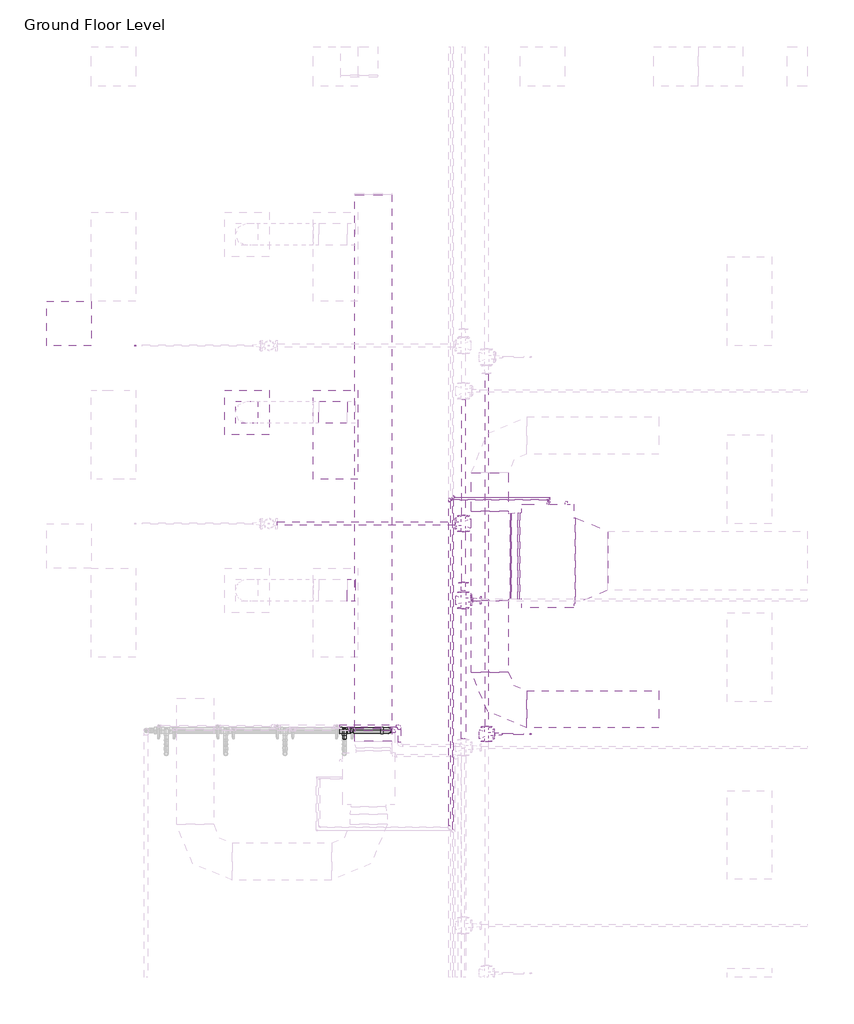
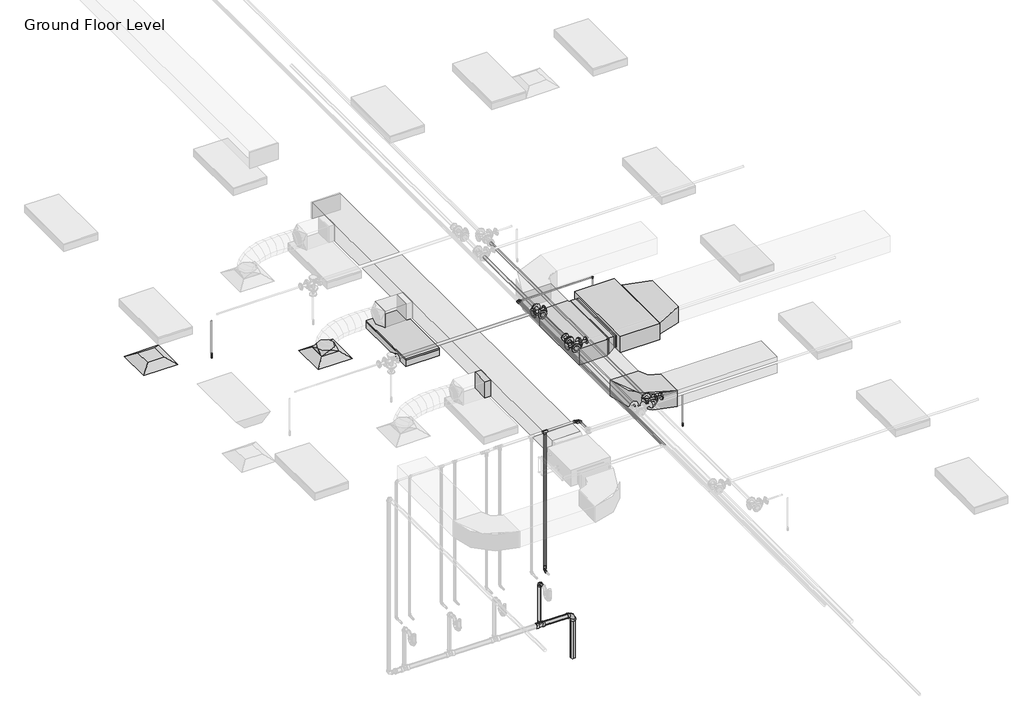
# One storey, part 25 of 74: 24 pipe fittings, 24 pipe segments, 7 duct fittings, 7 duct segments, 2 air terminals, 2 fire suppression terminals, 1 light fixture, 1 proxy.
"""IFC4 building model written with IfcOpenShell, lengths in millimetres."""

from ifc_helpers import new_model, si_unit, point, frame, frame_2d, origin, place, context, project, spatial, polyline, circle_curve, trimmed, segment, composite_curve, outline, extrude, transform, mapped, element, save
from components import m_return_diffuser_600_x_600_face_300_x_300_connection_ff221211, fcu_daikin_iu_5a1bd61d, m_rectangular_elbow_radius_1_w_abe20169, m_rectangular_takeoff_standard_cb0ccb98, m_rectangular_tee_standard_c717c13b, m_rectangular_transition_angle_45_degree_d2868699, m_rectangular_transition_angle_45_degree_3270bfc3, m_rectangular_transition_angle_45_degree_83bbb609, m_rectangular_to_round_transition_angle_45_degree_641efff0, m_sprinkler_dry_pendent_hosted_15_mm_dry_pendent_9bda8e11, m_sprinkler_pendent_15_mm_pendent_06fcbd8e, m_troffer_light_parabolic_rectangular1_0600x1200mm_4_lamp_86473d4a, m_bend_pvc_sch_40_dwv_standard_0eeb11e1, m_bend_pvc_sch_40_dwv_standard_1e7bdcc1, m_elbow_generic_standard_a088f956, m_elbow_generic_standard_2a704253, m_elbow_generic_standard_411ee063, m_elbow_generic_standard_a67d3ed8, m_reducer_flanged_cs_class_150_standard_cc2a7c1d, m_reducer_flanged_cs_class_150_standard_3ab32b2b, m_reducer_flanged_cs_class_150_standard_a7631c35, m_tee_generic_standard_5b2ed4d4, m_tee_generic_standard_5078887e, m_tee_reducing_sanitary_pvc_sch_40_dwv_standard_21d2848c, m_tee_round_base_flanged_cs_class_150_standard_dd767e04, m_tee_round_base_flanged_cs_class_150_standard_9c9133d0, m_tee_round_base_flanged_cs_class_150_standard_ab36f383, m_transition_generic_standard_5f8a9689, m_transition_generic_standard_bdcfe2c1, m_transition_generic_standard_44e35838, m_transition_generic_standard_570aa73b, standard_b266ab3f, standard_517a5a8d, standard_72b35c3b, standard_c7dcb452

model = new_model("IFC4")

# Units and contexts
model_context = context("Model", 3, world=origin())
ifc_project = project(units=[si_unit("LENGTHUNIT", "METRE", prefix="MILLI")], contexts=[model_context])

# Site, building, storey
site = spatial("IfcSite", under=ifc_project)
building = spatial("IfcBuilding", under=site)
storey = spatial("IfcBuildingStorey", under=building, Name="Ground Floor Level", Elevation=900.0)

# Air terminals
placement = place(None, origin())
m_return_diffuser_600_x_600_face_300_x_300_connection_shape = m_return_diffuser_600_x_600_face_300_x_300_connection_ff221211(model_context)
element("IfcAirTerminal", 1, ObjectType="M_Return Diffuser : 600 x 600 Face 300 x 300 Connection", at=placement, inside=storey, context=model_context, shape_type="MappedRepresentation", body=[
    mapped(m_return_diffuser_600_x_600_face_300_x_300_connection_shape, transform((362.7672395, -18364.7846466, 3650.0), x_axis=(1.0, 0.0, 0.0), y_axis=(0.0, 1.0, 0.0), z_axis=(0.0, 0.0, 1.0))),
])
element("IfcAirTerminal", 2, ObjectType="M_Supply Diffuser : 600 x 600 Face 300 x 300 Connection", at=placement, inside=storey, context=model_context, shape_type="MappedRepresentation", body=[
    mapped(m_return_diffuser_600_x_600_face_300_x_300_connection_shape, transform((2762.7672395, -19564.7846466, 3650.0), x_axis=(1.0, 0.0, 0.0), y_axis=(0.0, 1.0, 0.0), z_axis=(0.0, 0.0, 1.0))),
])

# Proxy
fcu_daikin_iu_shape = fcu_daikin_iu_5a1bd61d(model_context)
element("IfcBuildingElementProxy", 3, Name="FCU-DAIKIN IU : 9kW, 230V/50Hz/1Ph", ObjectType="FCU-DAIKIN IU : 9kW, 230V/50Hz/1Ph", at=placement, inside=storey, context=model_context, shape_type="MappedRepresentation", body=[
    mapped(fcu_daikin_iu_shape, transform((6820.4959647, -21503.0689179, 3984.0882279), x_axis=(0.0, 1.0, 0.0), y_axis=(-1.0, 0.0, 0.0), z_axis=(0.0, 0.0, 1.0))),
])

# Duct fittings
m_rectangular_elbow_radius_1_w_shape = m_rectangular_elbow_radius_1_w_abe20169(model_context)
element("IfcDuctFitting", 4, ObjectType="M_Rectangular Elbow - Radius : 1 W", at=placement, inside=storey, context=model_context, shape_type="MappedRepresentation", body=[
    mapped(m_rectangular_elbow_radius_1_w_shape, transform((6040.9897768, -23568.5689179, 4082.4543707), x_axis=(0.0, -1.0, 0.0), y_axis=(1.0, 0.0, 0.0), z_axis=(0.0, 0.0, 1.0))),
])
m_rectangular_takeoff_standard_shape = m_rectangular_takeoff_standard_cb0ccb98(model_context)
element("IfcDuctFitting", 5, ObjectType="M_Rectangular Takeoff : Standard", at=placement, inside=storey, context=model_context, shape_type="MappedRepresentation", body=[
    mapped(m_rectangular_takeoff_standard_shape, transform((4219.1581832, -21964.7846466, 4057.1519579), x_axis=(-1.0, 0.0, 0.0), y_axis=(0.0, 1.0, 0.0), z_axis=(0.0, 0.0, -1.0))),
])
m_rectangular_tee_standard_shape = m_rectangular_tee_standard_c717c13b(model_context)
element("IfcDuctFitting", 6, ObjectType="M_Rectangular Tee : Standard", at=placement, inside=storey, context=model_context, shape_type="MappedRepresentation", body=[
    mapped(m_rectangular_tee_standard_shape, transform((6040.9973279, -21503.0689179, 4082.4405262), x_axis=(0.0, -1.0, 0.0), y_axis=(-1.0, 0.0, 0.0), z_axis=(0.0, 0.0, -1.0))),
])
m_rectangular_transition_angle_45_degree_shape = m_rectangular_transition_angle_45_degree_d2868699(model_context)
element("IfcDuctFitting", 7, ObjectType="M_Rectangular Transition - Angle : 45 Degree", at=placement, inside=storey, context=model_context, shape_type="MappedRepresentation", body=[
    mapped(m_rectangular_transition_angle_45_degree_shape, transform((7195.8959647, -21566.5689179, 4150.0007279), x_axis=(1.0, 0.0, 0.0), y_axis=(0.0, 1.0, 0.0), z_axis=(0.0, 0.0, 1.0))),
])
m_rectangular_transition_angle_45_degree_2_shape = m_rectangular_transition_angle_45_degree_3270bfc3(model_context)
element("IfcDuctFitting", 8, ObjectType="M_Rectangular Transition - Angle : 45 Degree", at=placement, inside=storey, context=model_context, shape_type="MappedRepresentation", body=[
    mapped(m_rectangular_transition_angle_45_degree_2_shape, transform((6445.0959647, -21503.0689179, 4125.2882279), x_axis=(-1.0, 0.0, 0.0), y_axis=(0.0, -1.0, 0.0), z_axis=(0.0, 0.0, 1.0))),
])
m_rectangular_transition_angle_45_degree_3_shape = m_rectangular_transition_angle_45_degree_83bbb609(model_context)
element("IfcDuctFitting", 9, ObjectType="M_Rectangular Transition - Angle : 45 Degree", at=placement, inside=storey, context=model_context, shape_type="MappedRepresentation", body=[
    mapped(m_rectangular_transition_angle_45_degree_3_shape, transform((6416.9897764, -21503.0689179, 4125.4405264), x_axis=(-1.0, 0.0, 0.0), y_axis=(0.0, -1.0, 0.0), z_axis=(0.0, 0.0, 1.0))),
])
m_rectangular_to_round_transition_angle_45_degree_shape = m_rectangular_to_round_transition_angle_45_degree_641efff0(model_context)
element("IfcDuctFitting", 10, ObjectType="M_Rectangular to Round Transition - Angle : 45 Degree", at=placement, inside=storey, context=model_context, shape_type="MappedRepresentation", body=[
    mapped(m_rectangular_to_round_transition_angle_45_degree_shape, transform((2762.7672395, -19564.7846466, 3751.6), x_axis=(0.0, 0.0, 1.0), y_axis=(-1.0, 0.0, 0.0), z_axis=(0.0, -1.0, 0.0))),
])

# Duct segments
element("IfcDuctSegment", 11, ObjectType="Radius Elbows / Taps", at=placement, inside=storey, context=model_context, shape_type="SweptSolid", body=[
    extrude(outline(polyline([(0.0, -500.0), (0.0, 0.0), (7371.604175, 0.0), (7371.604175, -500.0), (0.0, -500.0)])), frame((4719.1581832, -16631.8629481, 3907.1429453), z_axis=(0.0, 1.6199957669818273e-06, 0.9999999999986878), x_axis=(0.0, -0.9999999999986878, 1.6199957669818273e-06)), (0.0, 0.0, 1.0), 300.0),
])
element("IfcDuctSegment", 12, ObjectType="Radius Elbows / Taps", at=placement, inside=storey, context=model_context, shape_type="SweptSolid", body=[
    extrude(outline(polyline([(6290.9897768, -20897.5689179), (5790.9897768, -20897.5689179), (5790.9897768, -20377.6206315), (6290.9897768, -20377.6206315), (6290.9897768, -20897.5689179)])), frame((0.0, 0.0, 3932.4543707), z_axis=(0.0, 0.0, 1.0), x_axis=(1.0, 0.0, 0.0)), (0.0, 0.0, 1.0), 300.0),
])
element("IfcDuctSegment", 13, ObjectType="Radius Elbows / Taps", at=placement, inside=storey, context=model_context, shape_type="SweptSolid", body=[
    extrude(outline(polyline([(5790.9897768, -22108.5689179), (6290.9897768, -22108.5689179), (6290.9897768, -23068.5689179), (5790.9897768, -23068.5689179), (5790.9897768, -22108.5689179)])), frame((0.0, 0.0, 3932.4543707), z_axis=(0.0, 0.0, 1.0), x_axis=(1.0, 0.0, 0.0)), (0.0, 0.0, 1.0), 300.0),
])
element("IfcDuctSegment", 14, ObjectType="Radius Elbows / Taps", at=placement, inside=storey, context=model_context, shape_type="SweptSolid", body=[
    extrude(outline(polyline([(6540.9897768, -23818.5689179), (6540.9897768, -23318.5689179), (8320.9897766, -23318.5689179), (8320.9897766, -23818.5689179), (6540.9897768, -23818.5689179)])), frame((0.0, 0.0, 3932.4543707), z_axis=(0.0, 0.0, 1.0), x_axis=(1.0, 0.0, 0.0)), (0.0, 0.0, 1.0), 300.0),
])
element("IfcDuctSegment", 15, ObjectType="Radius Elbows / Taps", at=placement, inside=storey, context=model_context, shape_type="SweptSolid", body=[
    extrude(outline(polyline([(6315.9897764, -22083.5689179), (6315.9897764, -20922.5689179), (6330.9897764, -20922.5689179), (6330.9897764, -22083.5689179), (6315.9897764, -22083.5689179)])), frame((0.0, 0.0, 3932.4405264), z_axis=(0.0, 0.0, 1.0), x_axis=(1.0, 0.0, 0.0)), (0.0, 0.0, 1.0), 300.0),
])
element("IfcDuctSegment", 16, ObjectType="Radius Elbows / Taps", at=placement, inside=storey, context=model_context, shape_type="SweptSolid", body=[
    extrude(outline(polyline([(6444.798299, -20922.0689179), (6444.798299, -22084.0689179), (6416.9897764, -22084.0689179), (6416.9897764, -20922.0689179), (6444.798299, -20922.0689179)])), frame((0.0, 0.0, 4018.4405264), z_axis=(0.0, 0.0, 1.0), x_axis=(1.0, 0.0, 0.0)), (0.0, 0.0, 1.0), 214.0),
])
element("IfcDuctSegment", 17, ObjectType="Radius Elbows / Taps", at=placement, inside=storey, context=model_context, shape_type="SweptSolid", body=[
    extrude(outline(polyline([(4117.5581832, -19414.7846466), (4117.5581832, -19714.7846466), (3732.9552689, -19714.7846466), (3732.9552689, -19414.7846466), (4117.5581832, -19414.7846466)])), frame((0.0, 0.0, 3907.1479019), z_axis=(0.0, 0.0, 1.0), x_axis=(1.0, 0.0, 0.0)), (0.0, 0.0, 1.0), 300.0),
])

# Fire suppression terminals
m_sprinkler_dry_pendent_hosted_15_mm_dry_pendent_shape = m_sprinkler_dry_pendent_hosted_15_mm_dry_pendent_9bda8e11(model_context)
element("IfcFireSuppressionTerminal", 18, ObjectType="M_Sprinkler - Dry - Pendent - Hosted : 15 mm Dry Pendent", at=placement, inside=storey, context=model_context, shape_type="MappedRepresentation", body=[
    mapped(m_sprinkler_dry_pendent_hosted_15_mm_dry_pendent_shape, transform((1262.7672395, -18664.7846466, 3650.0), x_axis=(1.0, 0.0, 0.0), y_axis=(0.0, -1.0, 0.0), z_axis=(0.0, 0.0, -1.0))),
])
m_sprinkler_pendent_15_mm_pendent_shape = m_sprinkler_pendent_15_mm_pendent_06fcbd8e(model_context)
element("IfcFireSuppressionTerminal", 19, ObjectType="M_Sprinkler - Pendent : 15 mm Pendent", at=placement, inside=storey, context=model_context, shape_type="MappedRepresentation", body=[
    mapped(m_sprinkler_pendent_15_mm_pendent_shape, transform((6592.5481019, -23903.6779349, 3650.0), x_axis=(1.0, 0.0, 0.0), y_axis=(0.0, 1.0, 0.0), z_axis=(0.0, 0.0, 1.0))),
])

# Light fixture
m_troffer_light_parabolic_rectangular1_0600x1200mm_4_lamp_shape = m_troffer_light_parabolic_rectangular1_0600x1200mm_4_lamp_86473d4a(model_context)
element("IfcLightFixture", 20, ObjectType="M_Troffer Light - Parabolic Rectangular1 : 0600x1200mm(4 Lamp) - 277V 2", at=placement, inside=storey, context=model_context, shape_type="MappedRepresentation", body=[
    mapped(m_troffer_light_parabolic_rectangular1_0600x1200mm_4_lamp_shape, transform((3903.3013074, -19846.081145, 3650.0), x_axis=(0.0, 1.0, 0.0), y_axis=(-1.0, 0.0, 0.0), z_axis=(0.0, 0.0, 1.0))),
])

# Pipe fittings
m_bend_pvc_sch_40_dwv_standard_shape = m_bend_pvc_sch_40_dwv_standard_0eeb11e1(model_context)
element("IfcPipeFitting", 21, ObjectType="M_Bend - PVC - Sch 40 - DWV : Standard", at=placement, inside=storey, context=model_context, shape_type="MappedRepresentation", body=[
    mapped(m_bend_pvc_sch_40_dwv_standard_shape, transform((4671.3267974, -23854.2948449, 706.9937306), x_axis=(0.9999500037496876, 0.0, -0.009999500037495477), y_axis=(-0.009999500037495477, 0.0, -0.9999500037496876), z_axis=(0.0, 1.0, 0.0))),
])
m_bend_pvc_sch_40_dwv_standard_2_shape = m_bend_pvc_sch_40_dwv_standard_1e7bdcc1(model_context)
element("IfcPipeFitting", 22, ObjectType="M_Bend - PVC - Sch 40 - DWV : Standard", at=placement, inside=storey, context=model_context, shape_type="MappedRepresentation", body=[
    mapped(m_bend_pvc_sch_40_dwv_standard_2_shape, transform((4078.7498, -23854.2948449, 1508.2594199), x_axis=(0.0, 0.9999500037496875, -0.00999950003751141), y_axis=(0.0, -0.00999950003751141, -0.9999500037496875), z_axis=(-1.0, 0.0, 0.0))),
])
m_elbow_generic_standard_shape = m_elbow_generic_standard_a088f956(model_context)
element("IfcPipeFitting", 23, ObjectType="M_Elbow - Generic : Standard", at=placement, inside=storey, context=model_context, shape_type="MappedRepresentation", body=[
    mapped(m_elbow_generic_standard_shape, transform((6820.4959647, -20745.3977393, 4390.0), x_axis=(1.0, 0.0, 0.0), y_axis=(0.0, 0.0, -1.0), z_axis=(0.0, 1.0, 0.0))),
])
m_elbow_generic_standard_2_shape = m_elbow_generic_standard_2a704253(model_context)
element("IfcPipeFitting", 24, ObjectType="M_Elbow - Generic : Standard", at=placement, inside=storey, context=model_context, shape_type="MappedRepresentation", body=[
    mapped(m_elbow_generic_standard_2_shape, transform((6845.4959647, -20711.8462992, 4377.5), x_axis=(1.0, 0.0, 0.0), y_axis=(0.0, 0.0, -1.0), z_axis=(0.0, 1.0, 0.0))),
])
m_elbow_generic_standard_3_shape = m_elbow_generic_standard_411ee063(model_context)
element("IfcPipeFitting", 25, ObjectType="M_Elbow - Generic : Standard", at=placement, inside=storey, context=model_context, shape_type="MappedRepresentation", body=[
    mapped(m_elbow_generic_standard_3_shape, transform((6820.4959647, -20745.3896748, 4084.1050098), x_axis=(0.0, 0.0, -1.0), y_axis=(0.0, -1.0, 0.0), z_axis=(-1.0, 0.0, 0.0))),
])
m_elbow_generic_standard_4_shape = m_elbow_generic_standard_a67d3ed8(model_context)
element("IfcPipeFitting", 26, ObjectType="M_Elbow - Generic : Standard", at=placement, inside=storey, context=model_context, shape_type="MappedRepresentation", body=[
    mapped(m_elbow_generic_standard_4_shape, transform((6845.4959647, -20711.8400273, 4134.9034747), x_axis=(0.0, 0.0, -1.0), y_axis=(0.0, -1.0, 0.0), z_axis=(-1.0, 0.0, 0.0))),
])
m_reducer_flanged_cs_class_150_standard_shape = m_reducer_flanged_cs_class_150_standard_cc2a7c1d(model_context)
element("IfcPipeFitting", 27, ObjectType="M_Reducer - Flanged - CS - Class 150 : Standard", at=placement, inside=storey, context=model_context, shape_type="MappedRepresentation", body=[
    mapped(m_reducer_flanged_cs_class_150_standard_shape, transform((6103.1564057, -23903.6779349, 4291.2754753), x_axis=(1.0, 0.0, 0.0), y_axis=(0.0, 0.0, -1.0), z_axis=(0.0, 1.0, 0.0))),
])
m_reducer_flanged_cs_class_150_standard_2_shape = m_reducer_flanged_cs_class_150_standard_3ab32b2b(model_context)
element("IfcPipeFitting", 28, ObjectType="M_Reducer - Flanged - CS - Class 150 : Standard", at=placement, inside=storey, context=model_context, shape_type="MappedRepresentation", body=[
    mapped(m_reducer_flanged_cs_class_150_standard_2_shape, transform((5684.6174894, -21984.0287346, 4347.5), x_axis=(0.0, 1.0, 0.0), y_axis=(-1.0, 0.0, 0.0), z_axis=(0.0, 0.0, 1.0))),
])
m_reducer_flanged_cs_class_150_standard_3_shape = m_reducer_flanged_cs_class_150_standard_a7631c35(model_context)
element("IfcPipeFitting", 29, ObjectType="M_Reducer - Flanged - CS - Class 150 : Standard", at=placement, inside=storey, context=model_context, shape_type="MappedRepresentation", body=[
    mapped(m_reducer_flanged_cs_class_150_standard_3_shape, transform((5798.6174894, -22098.0287346, 4347.5), x_axis=(1.0, 0.0, 0.0), y_axis=(0.0, 0.0, 1.0), z_axis=(0.0, -1.0, 0.0))),
])
m_tee_generic_standard_shape = m_tee_generic_standard_5b2ed4d4(model_context)
element("IfcPipeFitting", 30, ObjectType="M_Tee - Generic : Standard", at=placement, inside=storey, context=model_context, shape_type="MappedRepresentation", body=[
    mapped(m_tee_generic_standard_shape, transform((5543.9904113, -20711.8462992, 4377.5), x_axis=(0.0, -1.0, 0.0), y_axis=(-1.0, 0.0, 0.0), z_axis=(0.0, 0.0, -1.0))),
])
m_tee_generic_standard_2_shape = m_tee_generic_standard_5078887e(model_context)
element("IfcPipeFitting", 31, ObjectType="M_Tee - Generic : Standard", at=placement, inside=storey, context=model_context, shape_type="MappedRepresentation", body=[
    mapped(m_tee_generic_standard_2_shape, transform((5497.8951827, -20745.3977393, 4390.0), x_axis=(0.0, -1.0, 0.0), y_axis=(-1.0, 0.0, 0.0), z_axis=(0.0, 0.0, -1.0))),
])
m_tee_reducing_sanitary_pvc_sch_40_dwv_standard_shape = m_tee_reducing_sanitary_pvc_sch_40_dwv_standard_21d2848c(model_context)
element("IfcPipeFitting", 32, ObjectType="M_Tee Reducing Sanitary - PVC - Sch 40 - DWV : Standard", at=placement, inside=storey, context=model_context, shape_type="MappedRepresentation", body=[
    mapped(m_tee_reducing_sanitary_pvc_sch_40_dwv_standard_shape, transform((4078.7498, -23854.2948449, 713.0632162), x_axis=(-0.9999500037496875, 0.0, 0.00999950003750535), y_axis=(-0.00999950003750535, 0.0, -0.9999500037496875), z_axis=(0.0, -1.0, 0.0))),
])
m_tee_round_base_flanged_cs_class_150_standard_shape = m_tee_round_base_flanged_cs_class_150_standard_dd767e04(model_context)
element("IfcPipeFitting", 33, ObjectType="M_Tee Round Base - Flanged - CS - Class 150 : Standard", at=placement, inside=storey, context=model_context, shape_type="MappedRepresentation", body=[
    mapped(m_tee_round_base_flanged_cs_class_150_standard_shape, transform((5684.6174894, -22098.0287346, 4347.5), x_axis=(0.0, -1.0, 0.0), y_axis=(-1.0, 0.0, 0.0), z_axis=(0.0, 0.0, -1.0))),
])
m_tee_round_base_flanged_cs_class_150_standard_2_shape = m_tee_round_base_flanged_cs_class_150_standard_9c9133d0(model_context)
element("IfcPipeFitting", 34, ObjectType="M_Tee Round Base - Flanged - CS - Class 150 : Standard", at=placement, inside=storey, context=model_context, shape_type="MappedRepresentation", body=[
    mapped(m_tee_round_base_flanged_cs_class_150_standard_2_shape, transform((5997.057812, -23903.6779349, 4291.0943441), x_axis=(0.0, 1.0, 0.0), y_axis=(-1.0, 0.0, 0.0), z_axis=(0.0, 0.0, 1.0))),
])
m_tee_round_base_flanged_cs_class_150_standard_3_shape = m_tee_round_base_flanged_cs_class_150_standard_ab36f383(model_context)
element("IfcPipeFitting", 35, ObjectType="M_Tee Round Base - Flanged - CS - Class 150 : Standard", at=placement, inside=storey, context=model_context, shape_type="MappedRepresentation", body=[
    mapped(m_tee_round_base_flanged_cs_class_150_standard_3_shape, transform((5684.6174894, -21064.7846466, 4347.5), x_axis=(0.0, -1.0, 0.0), y_axis=(1.0, 0.0, 0.0), z_axis=(0.0, 0.0, 1.0))),
])
m_transition_generic_standard_shape = m_transition_generic_standard_5f8a9689(model_context)
element("IfcPipeFitting", 36, ObjectType="M_Transition - Generic : Standard", at=placement, inside=storey, context=model_context, shape_type="MappedRepresentation", body=[
    mapped(m_transition_generic_standard_shape, transform((5497.8951827, -20721.5852393, 4390.0), x_axis=(0.0, 1.0, 0.0), y_axis=(-1.0, 0.0, 0.0), z_axis=(0.0, 0.0, 1.0))),
])
m_transition_generic_standard_2_shape = m_transition_generic_standard_bdcfe2c1(model_context)
element("IfcPipeFitting", 37, ObjectType="M_Transition - Generic : Standard", at=placement, inside=storey, context=model_context, shape_type="MappedRepresentation", body=[
    mapped(m_transition_generic_standard_2_shape, transform((5564.6279113, -20711.8462992, 4377.5), x_axis=(1.0, 0.0, 0.0), y_axis=(0.0, 1.0, 0.0), z_axis=(0.0, 0.0, 1.0))),
])
m_transition_generic_standard_3_shape = m_transition_generic_standard_44e35838(model_context)
element("IfcPipeFitting", 38, ObjectType="M_Transition - Generic : Standard", at=placement, inside=storey, context=model_context, shape_type="MappedRepresentation", body=[
    mapped(m_transition_generic_standard_3_shape, transform((5521.7076827, -20745.3977393, 4390.0), x_axis=(1.0, 0.0, 0.0), y_axis=(0.0, 1.0, 0.0), z_axis=(0.0, 0.0, 1.0))),
])
m_transition_generic_standard_4_shape = m_transition_generic_standard_570aa73b(model_context)
element("IfcPipeFitting", 39, ObjectType="M_Transition - Generic : Standard", at=placement, inside=storey, context=model_context, shape_type="MappedRepresentation", body=[
    mapped(m_transition_generic_standard_4_shape, transform((5543.9904113, -20691.2087992, 4377.5), x_axis=(0.0, 1.0, 0.0), y_axis=(-1.0, 0.0, 0.0), z_axis=(0.0, 0.0, 1.0))),
])
standard_shape = standard_b266ab3f(model_context)
element("IfcPipeFitting", 40, ObjectType="M_Elbow - CPVC - Sch 40 : Standard", at=placement, inside=storey, context=model_context, shape_type="MappedRepresentation", body=[
    mapped(standard_shape, transform((4183.0647206, -23844.7846466, 1690.0), x_axis=(0.0, 1.0, 0.0), y_axis=(0.0, 0.0, 1.0), z_axis=(1.0, 0.0, 0.0))),
])
standard_2_shape = standard_517a5a8d(model_context)
element("IfcPipeFitting", 41, ObjectType="M_Elbow - CPVC - Sch 40 : Standard", at=placement, inside=storey, context=model_context, shape_type="MappedRepresentation", body=[
    mapped(standard_2_shape, transform((4743.0647206, -23844.7846466, 4300.0), x_axis=(0.0, 1.0, 0.0), y_axis=(-1.0, 0.0, 0.0), z_axis=(0.0, 0.0, 1.0))),
])
element("IfcPipeFitting", 42, ObjectType="M_Elbow - CPVC - Sch 40 : Standard", at=placement, inside=storey, context=model_context, shape_type="MappedRepresentation", body=[
    mapped(standard_2_shape, transform((4820.5575802, -23794.921633, 4250.0), x_axis=(0.0, 1.0, 0.0), y_axis=(-1.0, 0.0, 0.0), z_axis=(0.0, 0.0, 1.0))),
])
standard_3_shape = standard_72b35c3b(model_context)
element("IfcPipeFitting", 43, ObjectType="M_Tee - CPVC - Sch 40 : Standard", at=placement, inside=storey, context=model_context, shape_type="MappedRepresentation", body=[
    mapped(standard_3_shape, transform((4183.0647206, -23844.7846466, 4300.0), x_axis=(-1.0, 0.0, 0.0), y_axis=(0.0, 0.0, 1.0), z_axis=(0.0, 1.0, 0.0))),
])
standard_4_shape = standard_c7dcb452(model_context)
element("IfcPipeFitting", 44, ObjectType="M_Coupling Reducing - CPVC - Sch 40 : Standard", at=placement, inside=storey, context=model_context, shape_type="MappedRepresentation", body=[
    mapped(standard_4_shape, transform((4183.0647206, -23844.7846466, 1725.32505), x_axis=(0.0, 0.0, 1.0), y_axis=(0.0, 1.0, 0.0), z_axis=(-1.0, 0.0, 0.0))),
])

# Pipe segments
element("IfcPipeSegment", 45, ObjectType="CPVC", at=placement, inside=storey, context=model_context, shape_type="SweptSolid", body=[
    extrude(outline(composite_curve([segment(trimmed(circle_curve(frame_2d((-23844.7846466, 4300.0)), 16.7005), [point((-23861.4851466, 4300.0))], [point((-23844.7846466, 4316.7005))], False, "CARTESIAN"), True, "CONTINUOUS"), segment(trimmed(circle_curve(frame_2d((-23844.7846466, 4300.0)), 16.7005), [point((-23844.7846466, 4316.7005))], [point((-23828.0841466, 4300.0))], False, "CARTESIAN"), True, "CONTINUOUS"), segment(trimmed(circle_curve(frame_2d((-23844.7846466, 4300.0)), 16.7005), [point((-23828.0841466, 4300.0))], [point((-23844.7846466, 4283.2995))], False, "CARTESIAN"), True, "CONTINUOUS"), segment(trimmed(circle_curve(frame_2d((-23844.7846466, 4300.0)), 16.7005), [point((-23844.7846466, 4283.2995))], [point((-23861.4851466, 4300.0))], False, "CARTESIAN"), True, "CONTINUOUS")], self_intersect=False)), frame((4222.7649206, 0.0, 0.0), z_axis=(1.0, 0.0, 0.0), x_axis=(0.0, 1.0, 0.0)), (0.0, 0.0, 1.0), 477.03725),
])
element("IfcPipeSegment", 46, ObjectType="CPVC", at=placement, inside=storey, context=model_context, shape_type="SweptSolid", body=[
    extrude(outline(composite_curve([segment(trimmed(circle_curve(frame_2d((4183.0647206, -23844.7846466)), 16.7005), [point((4166.3642206, -23844.7846466))], [point((4183.0647206, -23828.0841466))], False, "CARTESIAN"), True, "CONTINUOUS"), segment(trimmed(circle_curve(frame_2d((4183.0647206, -23844.7846466)), 16.7005), [point((4183.0647206, -23828.0841466))], [point((4199.7652206, -23844.7846466))], False, "CARTESIAN"), True, "CONTINUOUS"), segment(trimmed(circle_curve(frame_2d((4183.0647206, -23844.7846466)), 16.7005), [point((4199.7652206, -23844.7846466))], [point((4183.0647206, -23861.4851466))], False, "CARTESIAN"), True, "CONTINUOUS"), segment(trimmed(circle_curve(frame_2d((4183.0647206, -23844.7846466)), 16.7005), [point((4183.0647206, -23861.4851466))], [point((4166.3642206, -23844.7846466))], False, "CARTESIAN"), True, "CONTINUOUS")], self_intersect=False)), frame((0.0, 0.0, 1782.47505), z_axis=(0.0, 0.0, 1.0), x_axis=(1.0, 0.0, 0.0)), (0.0, 0.0, 1.0), 2477.82475),
])
element("IfcPipeSegment", 47, ObjectType="CPVC", at=placement, inside=storey, context=model_context, shape_type="SweptSolid", body=[
    extrude(outline(composite_curve([segment(trimmed(circle_curve(frame_2d((4250.0, 4820.5575802)), 16.7005), [point((4250.0, 4837.2580802))], [point((4266.7005, 4820.5575802))], False, "CARTESIAN"), True, "CONTINUOUS"), segment(trimmed(circle_curve(frame_2d((4250.0, 4820.5575802)), 16.7005), [point((4266.7005, 4820.5575802))], [point((4250.0, 4803.8570802))], False, "CARTESIAN"), True, "CONTINUOUS"), segment(trimmed(circle_curve(frame_2d((4250.0, 4820.5575802)), 16.7005), [point((4250.0, 4803.8570802))], [point((4233.2995, 4820.5575802))], False, "CARTESIAN"), True, "CONTINUOUS"), segment(trimmed(circle_curve(frame_2d((4250.0, 4820.5575802)), 16.7005), [point((4233.2995, 4820.5575802))], [point((4250.0, 4837.2580802))], False, "CARTESIAN"), True, "CONTINUOUS")], self_intersect=False)), frame((0.0, -24011.659083, 0.0), z_axis=(0.0, 1.0, 0.0), x_axis=(0.0, 0.0, 1.0)), (0.0, 0.0, 1.0), 173.4749),
])
element("IfcPipeSegment", 48, ObjectType="CPVC", at=placement, inside=storey, context=model_context, shape_type="SweptSolid", body=[
    extrude(outline(composite_curve([segment(trimmed(circle_curve(frame_2d((-23794.921633, 4250.0)), 16.7005), [point((-23811.622133, 4250.0))], [point((-23794.921633, 4266.7005))], False, "CARTESIAN"), True, "CONTINUOUS"), segment(trimmed(circle_curve(frame_2d((-23794.921633, 4250.0)), 16.7005), [point((-23794.921633, 4266.7005))], [point((-23778.221133, 4250.0))], False, "CARTESIAN"), True, "CONTINUOUS"), segment(trimmed(circle_curve(frame_2d((-23794.921633, 4250.0)), 16.7005), [point((-23778.221133, 4250.0))], [point((-23794.921633, 4233.2995))], False, "CARTESIAN"), True, "CONTINUOUS"), segment(trimmed(circle_curve(frame_2d((-23794.921633, 4250.0)), 16.7005), [point((-23794.921633, 4233.2995))], [point((-23811.622133, 4250.0))], False, "CARTESIAN"), True, "CONTINUOUS")], self_intersect=False)), frame((4014.1350794, 0.0, 0.0), z_axis=(1.0, 0.0, 0.0), x_axis=(0.0, 1.0, 0.0)), (0.0, 0.0, 1.0), 763.1599508),
])
element("IfcPipeSegment", 49, ObjectType="Copper", at=placement, inside=storey, context=model_context, shape_type="SweptSolid", body=[
    extrude(outline(composite_curve([segment(trimmed(circle_curve(frame_2d((-20711.8462992, 4377.5)), 3.35), [point((-20715.1962992, 4377.5))], [point((-20711.8462992, 4380.85))], False, "CARTESIAN"), True, "CONTINUOUS"), segment(trimmed(circle_curve(frame_2d((-20711.8462992, 4377.5)), 3.35), [point((-20711.8462992, 4380.85))], [point((-20708.4962992, 4377.5))], False, "CARTESIAN"), True, "CONTINUOUS"), segment(trimmed(circle_curve(frame_2d((-20711.8462992, 4377.5)), 3.35), [point((-20708.4962992, 4377.5))], [point((-20711.8462992, 4374.15))], False, "CARTESIAN"), True, "CONTINUOUS"), segment(trimmed(circle_curve(frame_2d((-20711.8462992, 4377.5)), 3.35), [point((-20711.8462992, 4374.15))], [point((-20715.1962992, 4377.5))], False, "CARTESIAN"), True, "CONTINUOUS")], self_intersect=False)), frame((5568.5966613, 0.0, 0.0), z_axis=(1.0, 0.0, 0.0), x_axis=(0.0, 1.0, 0.0)), (0.0, 0.0, 1.0), 1265.7618034),
])
element("IfcPipeSegment", 50, ObjectType="Copper", at=placement, inside=storey, context=model_context, shape_type="SweptSolid", body=[
    extrude(outline(composite_curve([segment(trimmed(circle_curve(frame_2d((-20745.3977393, 4390.0)), 6.5), [point((-20751.8977393, 4390.0))], [point((-20745.3977393, 4396.5))], False, "CARTESIAN"), True, "CONTINUOUS"), segment(trimmed(circle_curve(frame_2d((-20745.3977393, 4390.0)), 6.5), [point((-20745.3977393, 4396.5))], [point((-20738.8977393, 4390.0))], False, "CARTESIAN"), True, "CONTINUOUS"), segment(trimmed(circle_curve(frame_2d((-20745.3977393, 4390.0)), 6.5), [point((-20738.8977393, 4390.0))], [point((-20745.3977393, 4383.5))], False, "CARTESIAN"), True, "CONTINUOUS"), segment(trimmed(circle_curve(frame_2d((-20745.3977393, 4390.0)), 6.5), [point((-20745.3977393, 4383.5))], [point((-20751.8977393, 4390.0))], False, "CARTESIAN"), True, "CONTINUOUS")], self_intersect=False)), frame((5527.2639327, 0.0, 0.0), z_axis=(1.0, 0.0, 0.0), x_axis=(0.0, 1.0, 0.0)), (0.0, 0.0, 1.0), 1278.9445321),
])
element("IfcPipeSegment", 51, ObjectType="Copper", at=placement, inside=storey, context=model_context, shape_type="SweptSolid", body=[
    extrude(outline(composite_curve([segment(trimmed(circle_curve(frame_2d((0.0, -6.5)), 6.5), [point((-6.5, -6.5))], [point((0.0, 0.0))], False, "CARTESIAN"), True, "CONTINUOUS"), segment(trimmed(circle_curve(frame_2d((0.0, -6.5)), 6.5), [point((0.0, 0.0))], [point((6.5, -6.5))], False, "CARTESIAN"), True, "CONTINUOUS"), segment(trimmed(circle_curve(frame_2d((0.0, -6.5)), 6.5), [point((6.5, -6.5))], [point((0.0, -13.0))], False, "CARTESIAN"), True, "CONTINUOUS"), segment(trimmed(circle_curve(frame_2d((0.0, -6.5)), 6.5), [point((0.0, -13.0))], [point((-6.5, -6.5))], False, "CARTESIAN"), True, "CONTINUOUS")], self_intersect=False)), frame((6820.4959647, -20764.9497842, 4077.5882561), z_axis=(0.0, 0.9999956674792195, 0.0029436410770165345), x_axis=(1.0, 0.0, 0.0)), (0.0, 0.0, 1.0), 5.2929673),
])
element("IfcPipeSegment", 52, ObjectType="Copper", at=placement, inside=storey, context=model_context, shape_type="SweptSolid", body=[
    extrude(outline(composite_curve([segment(trimmed(circle_curve(frame_2d((0.0, -3.35)), 3.35), [point((0.0, 0.0))], [point((3.35, -3.35))], False, "CARTESIAN"), True, "CONTINUOUS"), segment(trimmed(circle_curve(frame_2d((0.0, -3.35)), 3.35), [point((3.35, -3.35))], [point((0.0, -6.7))], False, "CARTESIAN"), True, "CONTINUOUS"), segment(trimmed(circle_curve(frame_2d((0.0, -3.35)), 3.35), [point((0.0, -6.7))], [point((-3.35, -3.35))], False, "CARTESIAN"), True, "CONTINUOUS"), segment(trimmed(circle_curve(frame_2d((0.0, -3.35)), 3.35), [point((-3.35, -3.35))], [point((0.0, 0.0))], False, "CARTESIAN"), True, "CONTINUOUS")], self_intersect=False)), frame((6842.1459647, -20764.9689179, 4134.8882279), z_axis=(0.0, 0.9999999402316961, 0.00034574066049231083), x_axis=(0.0, 0.00034574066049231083, -0.9999999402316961)), (0.0, 0.0, 1.0), 41.9921215),
])
element("IfcPipeSegment", 53, ObjectType="Copper", at=placement, inside=storey, context=model_context, shape_type="SweptSolid", body=[
    extrude(outline(composite_curve([segment(trimmed(circle_curve(frame_2d((4377.5, 5543.9904113)), 6.5), [point((4377.5, 5550.4904113))], [point((4384.0, 5543.9904113))], False, "CARTESIAN"), True, "CONTINUOUS"), segment(trimmed(circle_curve(frame_2d((4377.5, 5543.9904113)), 6.5), [point((4384.0, 5543.9904113))], [point((4377.5, 5537.4904113))], False, "CARTESIAN"), True, "CONTINUOUS"), segment(trimmed(circle_curve(frame_2d((4377.5, 5543.9904113)), 6.5), [point((4377.5, 5537.4904113))], [point((4371.0, 5543.9904113))], False, "CARTESIAN"), True, "CONTINUOUS"), segment(trimmed(circle_curve(frame_2d((4377.5, 5543.9904113)), 6.5), [point((4371.0, 5543.9904113))], [point((4377.5, 5550.4904113))], False, "CARTESIAN"), True, "CONTINUOUS")], self_intersect=False)), frame((0.0, -25185.8524508, 0.0), z_axis=(0.0, 1.0, 0.0), x_axis=(0.0, 0.0, 1.0)), (0.0, 0.0, 1.0), 4453.3686516),
])
element("IfcPipeSegment", 54, ObjectType="Copper", at=placement, inside=storey, context=model_context, shape_type="SweptSolid", body=[
    extrude(outline(composite_curve([segment(trimmed(circle_curve(frame_2d((4390.0, 5497.8951827)), 9.75), [point((4390.0, 5507.6451827))], [point((4399.75, 5497.8951827))], False, "CARTESIAN"), True, "CONTINUOUS"), segment(trimmed(circle_curve(frame_2d((4390.0, 5497.8951827)), 9.75), [point((4399.75, 5497.8951827))], [point((4390.0, 5488.1451827))], False, "CARTESIAN"), True, "CONTINUOUS"), segment(trimmed(circle_curve(frame_2d((4390.0, 5497.8951827)), 9.75), [point((4390.0, 5488.1451827))], [point((4380.25, 5497.8951827))], False, "CARTESIAN"), True, "CONTINUOUS"), segment(trimmed(circle_curve(frame_2d((4390.0, 5497.8951827)), 9.75), [point((4380.25, 5497.8951827))], [point((4390.0, 5507.6451827))], False, "CARTESIAN"), True, "CONTINUOUS")], self_intersect=False)), frame((0.0, -25138.2771488, 0.0), z_axis=(0.0, 1.0, 0.0), x_axis=(0.0, 0.0, 1.0)), (0.0, 0.0, 1.0), 4369.0669095),
])
element("IfcPipeSegment", 55, ObjectType="Copper", at=placement, inside=storey, context=model_context, shape_type="SweptSolid", body=[
    extrude(outline(composite_curve([segment(trimmed(circle_curve(frame_2d((0.0, -6.5)), 6.5), [point((-6.5, -6.5))], [point((0.0, 0.0))], False, "CARTESIAN"), True, "CONTINUOUS"), segment(trimmed(circle_curve(frame_2d((0.0, -6.5)), 6.5), [point((0.0, 0.0))], [point((6.5, -6.5))], False, "CARTESIAN"), True, "CONTINUOUS"), segment(trimmed(circle_curve(frame_2d((0.0, -6.5)), 6.5), [point((6.5, -6.5))], [point((0.0, -13.0))], False, "CARTESIAN"), True, "CONTINUOUS"), segment(trimmed(circle_curve(frame_2d((0.0, -6.5)), 6.5), [point((0.0, -13.0))], [point((-6.5, -6.5))], False, "CARTESIAN"), True, "CONTINUOUS")], self_intersect=False)), frame((6820.4959647, -20751.8896748, 4098.3911194), z_axis=(0.0, -2.907973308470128e-05, 0.9999999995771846), x_axis=(-1.0, 0.0, 0.0)), (0.0, 0.0, 1.0), 277.3211917),
])
element("IfcPipeSegment", 56, ObjectType="Copper", at=placement, inside=storey, context=model_context, shape_type="SweptSolid", body=[
    extrude(outline(composite_curve([segment(trimmed(circle_curve(frame_2d((0.0, -3.35)), 3.35), [point((-3.35, -3.35))], [point((0.0, 0.0))], False, "CARTESIAN"), True, "CONTINUOUS"), segment(trimmed(circle_curve(frame_2d((0.0, -3.35)), 3.35), [point((0.0, 0.0))], [point((3.35, -3.35))], False, "CARTESIAN"), True, "CONTINUOUS"), segment(trimmed(circle_curve(frame_2d((0.0, -3.35)), 3.35), [point((3.35, -3.35))], [point((0.0, -6.7))], False, "CARTESIAN"), True, "CONTINUOUS"), segment(trimmed(circle_curve(frame_2d((0.0, -3.35)), 3.35), [point((0.0, -6.7))], [point((-3.35, -3.35))], False, "CARTESIAN"), True, "CONTINUOUS")], self_intersect=False)), frame((6845.4959647, -20715.1900273, 4146.0401509), z_axis=(0.0, -2.8466951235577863e-05, 0.9999999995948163), x_axis=(-1.0, 0.0, 0.0)), (0.0, 0.0, 1.0), 220.3222538),
])
element("IfcPipeSegment", 57, ObjectType="PVC - DWV", at=placement, inside=storey, context=model_context, shape_type="SweptSolid", body=[
    extrude(outline(composite_curve([segment(trimmed(circle_curve(frame_2d((0.0, -36.5125)), 36.5125), [point((0.0, -73.025))], [point((-36.5125001, -36.5125))], False, "CARTESIAN"), True, "CONTINUOUS"), segment(trimmed(circle_curve(frame_2d((0.0, -36.5125)), 36.5125), [point((-36.5125001, -36.5125))], [point((0.0, 0.0))], False, "CARTESIAN"), True, "CONTINUOUS"), segment(trimmed(circle_curve(frame_2d((0.0, -36.5125)), 36.5125), [point((0.0, 0.0))], [point((36.5125, -36.5125))], False, "CARTESIAN"), True, "CONTINUOUS"), segment(trimmed(circle_curve(frame_2d((0.0, -36.5125)), 36.5125), [point((36.5125, -36.5125))], [point((0.0, -73.025))], False, "CARTESIAN"), True, "CONTINUOUS")], self_intersect=False)), frame((4572.3191851, -23817.7823449, 708.1338068), z_axis=(-0.9999501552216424, 0.0, 0.009984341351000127), x_axis=(0.009984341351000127, 0.0, 0.9999501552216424)), (0.0, 0.0, 1.0), 414.5308814),
])
element("IfcPipeSegment", 58, ObjectType="PVC - DWV", at=placement, inside=storey, context=model_context, shape_type="SweptSolid", body=[
    extrude(outline(composite_curve([segment(trimmed(circle_curve(frame_2d((0.0, -24.13)), 24.13), [point((24.13, -24.13))], [point((0.0, -48.26))], False, "CARTESIAN"), True, "CONTINUOUS"), segment(trimmed(circle_curve(frame_2d((0.0, -24.13)), 24.13), [point((0.0, -48.26))], [point((-24.13, -24.13))], False, "CARTESIAN"), True, "CONTINUOUS"), segment(trimmed(circle_curve(frame_2d((0.0, -24.13)), 24.13), [point((-24.13, -24.13))], [point((0.0, 0.0))], False, "CARTESIAN"), True, "CONTINUOUS"), segment(trimmed(circle_curve(frame_2d((0.0, -24.13)), 24.13), [point((0.0, 0.0))], [point((24.13, -24.13))], False, "CARTESIAN"), True, "CONTINUOUS")], self_intersect=False)), frame((4078.7498, -23915.9502622, 1533.0071805), z_axis=(0.0, -0.9999500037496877, 0.009999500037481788), x_axis=(1.0, 0.0, 0.0)), (0.0, 0.0, 1.0), 60.2666156),
])
element("IfcPipeSegment", 59, ObjectType="PVC - DWV", at=placement, inside=storey, context=model_context, shape_type="SweptSolid", body=[
    extrude(outline(composite_curve([segment(trimmed(circle_curve(frame_2d((4078.7498, -23854.2948449)), 24.13), [point((4054.6198, -23854.2948449))], [point((4078.7498, -23830.1648449))], False, "CARTESIAN"), True, "CONTINUOUS"), segment(trimmed(circle_curve(frame_2d((4078.7498, -23854.2948449)), 24.13), [point((4078.7498, -23830.1648449))], [point((4102.8798, -23854.2948449))], False, "CARTESIAN"), True, "CONTINUOUS"), segment(trimmed(circle_curve(frame_2d((4078.7498, -23854.2948449)), 24.13), [point((4102.8798, -23854.2948449))], [point((4078.7498, -23878.4248449))], False, "CARTESIAN"), True, "CONTINUOUS"), segment(trimmed(circle_curve(frame_2d((4078.7498, -23854.2948449)), 24.13), [point((4078.7498, -23878.4248449))], [point((4054.6198, -23854.2948449))], False, "CARTESIAN"), True, "CONTINUOUS")], self_intersect=False)), frame((0.0, 0.0, 793.9106725), z_axis=(0.0, 0.0, 1.0), x_axis=(1.0, 0.0, 0.0)), (0.0, 0.0, 1.0), 652.4489474),
])
element("IfcPipeSegment", 60, ObjectType="PVC - DWV", at=placement, inside=storey, context=model_context, shape_type="SweptSolid", body=[
    extrude(outline(composite_curve([segment(trimmed(circle_curve(frame_2d((0.0, -36.5125)), 36.5125), [point((-36.5125, -36.5125))], [point((0.0, 0.0))], False, "CARTESIAN"), True, "CONTINUOUS"), segment(trimmed(circle_curve(frame_2d((0.0, -36.5125)), 36.5125), [point((0.0, 0.0))], [point((36.5125, -36.5125))], False, "CARTESIAN"), True, "CONTINUOUS"), segment(trimmed(circle_curve(frame_2d((0.0, -36.5125)), 36.5125), [point((36.5125, -36.5125))], [point((0.0, -73.025))], False, "CARTESIAN"), True, "CONTINUOUS"), segment(trimmed(circle_curve(frame_2d((0.0, -36.5125)), 36.5125), [point((0.0, -73.025))], [point((-36.5125, -36.5125))], False, "CARTESIAN"), True, "CONTINUOUS")], self_intersect=False)), frame((4671.2998001, -23890.8073449, -100.0), z_axis=(3.81328750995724e-05, 0.0, 0.999999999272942), x_axis=(-0.999999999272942, 0.0, 3.81328750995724e-05)), (0.0, 0.0, 1.0), 707.9796686),
])
element("IfcPipeSegment", 61, ObjectType="Steel flanged", at=placement, inside=storey, context=model_context, shape_type="SweptSolid", body=[
    extrude(outline(composite_curve([segment(trimmed(circle_curve(frame_2d((6592.5481019, -23903.6779349)), 10.668), [point((6581.8801019, -23903.6779349))], [point((6592.5481019, -23893.0099349))], False, "CARTESIAN"), True, "CONTINUOUS"), segment(trimmed(circle_curve(frame_2d((6592.5481019, -23903.6779349)), 10.668), [point((6592.5481019, -23893.0099349))], [point((6603.2161019, -23903.6779349))], False, "CARTESIAN"), True, "CONTINUOUS"), segment(trimmed(circle_curve(frame_2d((6592.5481019, -23903.6779349)), 10.668), [point((6603.2161019, -23903.6779349))], [point((6592.5481019, -23914.3459349))], False, "CARTESIAN"), True, "CONTINUOUS"), segment(trimmed(circle_curve(frame_2d((6592.5481019, -23903.6779349)), 10.668), [point((6592.5481019, -23914.3459349))], [point((6581.8801019, -23903.6779349))], False, "CARTESIAN"), True, "CONTINUOUS")], self_intersect=False)), frame((0.0, 0.0, 3650.0), z_axis=(0.0, 0.0, 1.0), x_axis=(1.0, 0.0, 0.0)), (0.0, 0.0, 1.0), 548.2668816),
])
element("IfcPipeSegment", 62, ObjectType="Steel flanged", at=placement, inside=storey, context=model_context, shape_type="SweptSolid", body=[
    extrude(outline(composite_curve([segment(trimmed(circle_curve(frame_2d((-23903.6779349, 4291.2754753)), 10.668), [point((-23893.0099349, 4291.2754753))], [point((-23903.6779349, 4280.6074753))], False, "CARTESIAN"), True, "CONTINUOUS"), segment(trimmed(circle_curve(frame_2d((-23903.6779349, 4291.2754753)), 10.668), [point((-23903.6779349, 4280.6074753))], [point((-23914.3459349, 4291.2754753))], False, "CARTESIAN"), True, "CONTINUOUS"), segment(trimmed(circle_curve(frame_2d((-23903.6779349, 4291.2754753)), 10.668), [point((-23914.3459349, 4291.2754753))], [point((-23903.6779349, 4301.9434753))], False, "CARTESIAN"), True, "CONTINUOUS"), segment(trimmed(circle_curve(frame_2d((-23903.6779349, 4291.2754753)), 10.668), [point((-23903.6779349, 4301.9434753))], [point((-23893.0099349, 4291.2754753))], False, "CARTESIAN"), True, "CONTINUOUS")], self_intersect=False)), frame((6217.1564057, 0.0, 0.0), z_axis=(1.0, 0.0, 0.0), x_axis=(0.0, 1.0, 0.0)), (0.0, 0.0, 1.0), 282.3831025),
])
element("IfcPipeSegment", 63, ObjectType="Steel flanged", at=placement, inside=storey, context=model_context, shape_type="SweptSolid", body=[
    extrude(outline(composite_curve([segment(trimmed(circle_curve(frame_2d((4291.0943441, 5997.057812)), 21.082), [point((4291.0943441, 5975.975812))], [point((4270.0123441, 5997.057812))], False, "CARTESIAN"), True, "CONTINUOUS"), segment(trimmed(circle_curve(frame_2d((4291.0943441, 5997.057812)), 21.082), [point((4270.0123441, 5997.057812))], [point((4291.0943441, 6018.139812))], False, "CARTESIAN"), True, "CONTINUOUS"), segment(trimmed(circle_curve(frame_2d((4291.0943441, 5997.057812)), 21.082), [point((4291.0943441, 6018.139812))], [point((4312.1763441, 5997.057812))], False, "CARTESIAN"), True, "CONTINUOUS"), segment(trimmed(circle_curve(frame_2d((4291.0943441, 5997.057812)), 21.082), [point((4312.1763441, 5997.057812))], [point((4291.0943441, 5975.975812))], False, "CARTESIAN"), True, "CONTINUOUS")], self_intersect=False)), frame((0.0, -23797.5793411, 0.0), z_axis=(0.0, 1.0, 0.0), x_axis=(0.0, 0.0, 1.0)), (0.0, 0.0, 1.0), 4752.4508334),
])
element("IfcPipeSegment", 64, ObjectType="Steel flanged", at=placement, inside=storey, context=model_context, shape_type="SweptSolid", body=[
    extrude(outline(composite_curve([segment(trimmed(circle_curve(frame_2d((4347.5, 5684.6174894)), 30.1625), [point((4347.5, 5714.7799894))], [point((4377.6625, 5684.6174894))], False, "CARTESIAN"), True, "CONTINUOUS"), segment(trimmed(circle_curve(frame_2d((4347.5, 5684.6174894)), 30.1625), [point((4377.6625, 5684.6174894))], [point((4347.5, 5654.4549894))], False, "CARTESIAN"), True, "CONTINUOUS"), segment(trimmed(circle_curve(frame_2d((4347.5, 5684.6174894)), 30.1625), [point((4347.5, 5654.4549894))], [point((4317.3375, 5684.6174894))], False, "CARTESIAN"), True, "CONTINUOUS"), segment(trimmed(circle_curve(frame_2d((4347.5, 5684.6174894)), 30.1625), [point((4317.3375, 5684.6174894))], [point((4347.5, 5714.7799894))], False, "CARTESIAN"), True, "CONTINUOUS")], self_intersect=False)), frame((0.0, -23969.6779349, 0.0), z_axis=(0.0, 1.0, 0.0), x_axis=(0.0, 0.0, 1.0)), (0.0, 0.0, 1.0), 1757.6492003),
])
element("IfcPipeSegment", 65, ObjectType="Steel flanged", at=placement, inside=storey, context=model_context, shape_type="SweptSolid", body=[
    extrude(outline(composite_curve([segment(trimmed(circle_curve(frame_2d((1262.7672395, -18664.7846466)), 10.668), [point((1252.0992395, -18664.7846466))], [point((1262.7672395, -18654.1166466))], False, "CARTESIAN"), True, "CONTINUOUS"), segment(trimmed(circle_curve(frame_2d((1262.7672395, -18664.7846466)), 10.668), [point((1262.7672395, -18654.1166466))], [point((1273.4352395, -18664.7846466))], False, "CARTESIAN"), True, "CONTINUOUS"), segment(trimmed(circle_curve(frame_2d((1262.7672395, -18664.7846466)), 10.668), [point((1273.4352395, -18664.7846466))], [point((1262.7672395, -18675.4526466))], False, "CARTESIAN"), True, "CONTINUOUS"), segment(trimmed(circle_curve(frame_2d((1262.7672395, -18664.7846466)), 10.668), [point((1262.7672395, -18675.4526466))], [point((1252.0992395, -18664.7846466))], False, "CARTESIAN"), True, "CONTINUOUS")], self_intersect=False)), frame((0.0, 0.0, 3650.0), z_axis=(0.0, 0.0, 1.0), x_axis=(1.0, 0.0, 0.0)), (0.0, 0.0, 1.0), 604.4914062),
])
element("IfcPipeSegment", 66, ObjectType="Steel flanged", at=placement, inside=storey, context=model_context, shape_type="SweptSolid", body=[
    extrude(outline(composite_curve([segment(trimmed(circle_curve(frame_2d((4347.5, 5684.6174894)), 24.13), [point((4347.5, 5708.7474894))], [point((4371.63, 5684.6174894))], False, "CARTESIAN"), True, "CONTINUOUS"), segment(trimmed(circle_curve(frame_2d((4347.5, 5684.6174894)), 24.13), [point((4371.63, 5684.6174894))], [point((4347.5, 5660.4874894))], False, "CARTESIAN"), True, "CONTINUOUS"), segment(trimmed(circle_curve(frame_2d((4347.5, 5684.6174894)), 24.13), [point((4347.5, 5660.4874894))], [point((4323.37, 5684.6174894))], False, "CARTESIAN"), True, "CONTINUOUS"), segment(trimmed(circle_curve(frame_2d((4347.5, 5684.6174894)), 24.13), [point((4323.37, 5684.6174894))], [point((4347.5, 5708.7474894))], False, "CARTESIAN"), True, "CONTINUOUS")], self_intersect=False)), frame((0.0, -20952.5260529, 0.0), z_axis=(0.0, 1.0, 0.0), x_axis=(0.0, 0.0, 1.0)), (0.0, 0.0, 1.0), 1564.3818468),
])
element("IfcPipeSegment", 67, ObjectType="Steel flanged", at=placement, inside=storey, context=model_context, shape_type="SweptSolid", body=[
    extrude(outline(composite_curve([segment(trimmed(circle_curve(frame_2d((4347.5, 5684.6174894)), 24.13), [point((4347.5, 5708.7474894))], [point((4371.63, 5684.6174894))], False, "CARTESIAN"), True, "CONTINUOUS"), segment(trimmed(circle_curve(frame_2d((4347.5, 5684.6174894)), 24.13), [point((4371.63, 5684.6174894))], [point((4347.5, 5660.4874894))], False, "CARTESIAN"), True, "CONTINUOUS"), segment(trimmed(circle_curve(frame_2d((4347.5, 5684.6174894)), 24.13), [point((4347.5, 5660.4874894))], [point((4323.37, 5684.6174894))], False, "CARTESIAN"), True, "CONTINUOUS"), segment(trimmed(circle_curve(frame_2d((4347.5, 5684.6174894)), 24.13), [point((4323.37, 5684.6174894))], [point((4347.5, 5708.7474894))], False, "CARTESIAN"), True, "CONTINUOUS")], self_intersect=False)), frame((0.0, -21857.0287346, 0.0), z_axis=(0.0, 1.0, 0.0), x_axis=(0.0, 0.0, 1.0)), (0.0, 0.0, 1.0), 679.9854942),
])
element("IfcPipeSegment", 68, ObjectType="Steel flanged", at=placement, inside=storey, context=model_context, shape_type="SweptSolid", body=[
    extrude(outline(composite_curve([segment(trimmed(circle_curve(frame_2d((-21064.7846466, 4347.5)), 24.13), [point((-21088.9146466, 4347.5))], [point((-21064.7846466, 4371.63))], False, "CARTESIAN"), True, "CONTINUOUS"), segment(trimmed(circle_curve(frame_2d((-21064.7846466, 4347.5)), 24.13), [point((-21064.7846466, 4371.63))], [point((-21040.6546466, 4347.5))], False, "CARTESIAN"), True, "CONTINUOUS"), segment(trimmed(circle_curve(frame_2d((-21064.7846466, 4347.5)), 24.13), [point((-21040.6546466, 4347.5))], [point((-21064.7846466, 4323.37))], False, "CARTESIAN"), True, "CONTINUOUS"), segment(trimmed(circle_curve(frame_2d((-21064.7846466, 4347.5)), 24.13), [point((-21064.7846466, 4323.37))], [point((-21088.9146466, 4347.5))], False, "CARTESIAN"), True, "CONTINUOUS")], self_intersect=False)), frame((3175.0258332, 0.0, 0.0), z_axis=(1.0, 0.0, 0.0), x_axis=(0.0, 1.0, 0.0)), (0.0, 0.0, 1.0), 2397.3330624),
])

save(model, "model.ifc")
